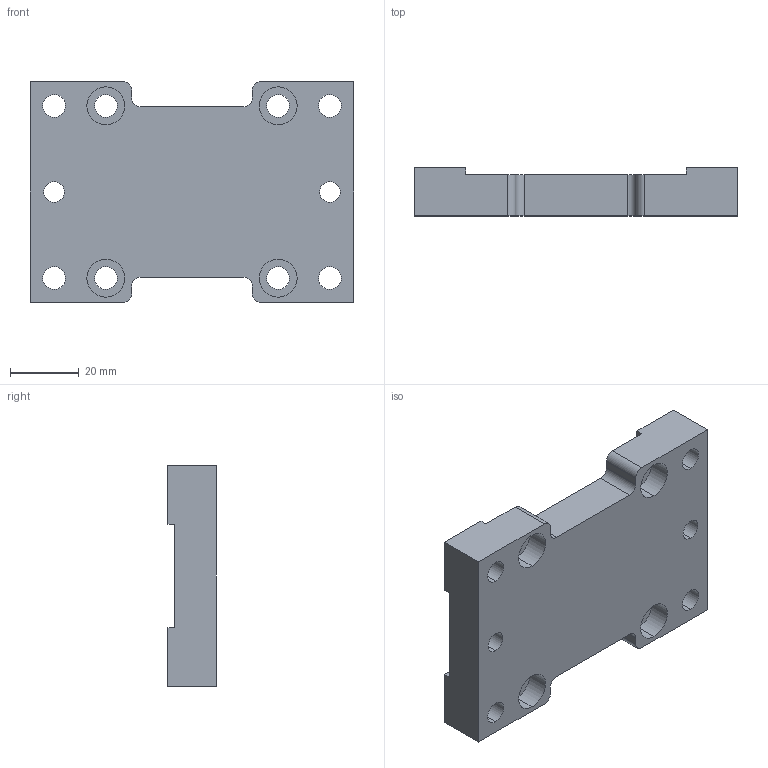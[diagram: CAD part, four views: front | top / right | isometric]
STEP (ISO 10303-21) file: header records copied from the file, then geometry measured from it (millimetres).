
FILE_DESCRIPTION (( 'STEP AP203' ), '1' );
FILE_NAME ('T50S.step', '2017-02-15T12:26:19', ( '' ), ( '' ), 'SwSTEP 2.0', 'SolidWorks 2012', '' );
FILE_SCHEMA (( 'CONFIG_CONTROL_DESIGN' ));
Length unit declared in the file: millimetre
Products named in the file (1): T50S
Bounding box: 94 x 14 x 64 mm (x, y, z)
Volume: 60786.8 mm3; surface area: 18222.8 mm2
Topology: 1 solids, 1 shells, 78 faces, 204 edges, 136 vertices
Faces by surface type: cylinder 44, plane 34
Entity records: 2553 total; most frequent: DIRECTION 450, CARTESIAN_POINT 419, ORIENTED_EDGE 408, EDGE_CURVE 204, AXIS2_PLACEMENT_3D 167, VERTEX_POINT 136, LINE 116, VECTOR 116
